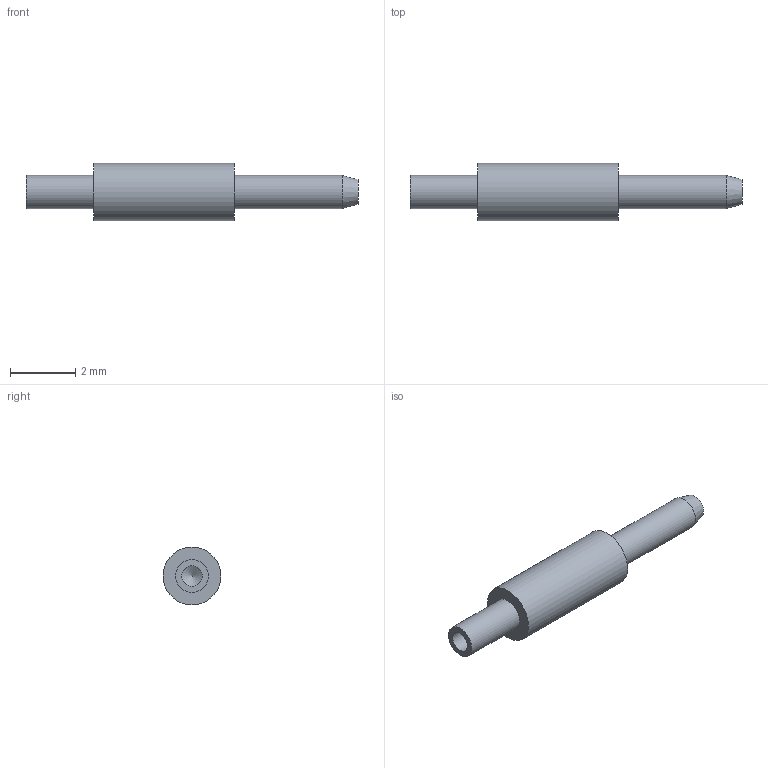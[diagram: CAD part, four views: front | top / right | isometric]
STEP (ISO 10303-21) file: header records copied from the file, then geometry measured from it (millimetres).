
FILE_DESCRIPTION(/* description */ (''),/* implementation_level */ '2;1');
FILE_NAME(/* name */ 'Z:\STEP folder\460262702.ipt.stp',/* time_stamp */ '2016-12-21T13:04:21+00:00',/* author */ ('Paul Karlsons'),/* organization */ (''),/* preprocessor_version */ 'ST-DEVELOPER v15.2',/* originating_system */ 'Autodesk Inventor 2014',/* authorisation */ '');
FILE_SCHEMA (('AUTOMOTIVE_DESIGN { 1 0 10303 214 3 1 1 }'));
Length unit declared in the file: millimetre
Products named in the file (1): 460262702
Bounding box: 10.21 x 1.78 x 1.78 mm (x, y, z)
Volume: 15.1 mm3; surface area: 49.5 mm2
Topology: 1 solids, 1 shells, 10 faces, 16 edges, 10 vertices
Faces by surface type: cylinder 4, plane 4, cone 2
Full cylindrical faces by diameter (mm): 0.635 x1, 1.016 x2, 1.778 x1
Entity records: 215 total; most frequent: DIRECTION 40, CARTESIAN_POINT 29, AXIS2_PLACEMENT_3D 20, EDGE_LOOP 18, ORIENTED_EDGE 18, FACE_BOUND 10, ADVANCED_FACE 10, CIRCLE 9
